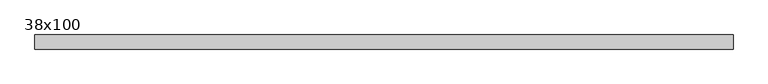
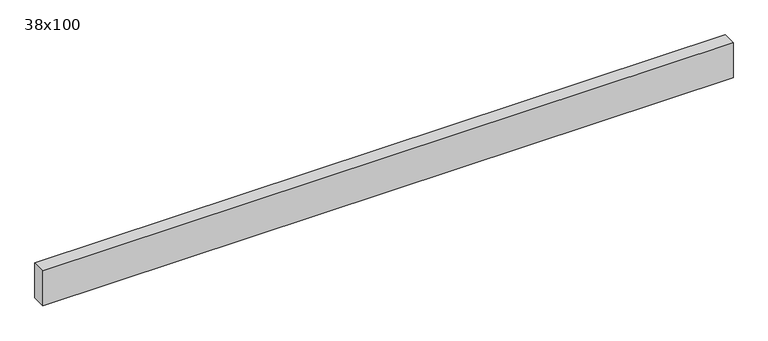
"""IFC4 building model written with IfcOpenShell, lengths in millimetres: beam geometry, Poutre - Bois de construction de dimensions courantes : 38x100."""

from ifc_helpers import new_model, si_unit, frame, origin, place, context, project, spatial, polyline, outline, extrude, source, transform, mapped, element, save


def beam_38x100_a74d10ac(model_context):
    return source(origin(), model_context, "Body", "SweptSolid", [
        extrude(outline(polyline([(916.5, 19.05), (916.5, -19.05), (-960.5, -19.05), (-960.5, 19.05), (916.5, 19.05)])), frame((0.0, 0.0, -50.0), z_axis=(0.0, 0.0, 1.0), x_axis=(1.0, 0.0, 0.0)), (0.0, 0.0, 1.0), 100.0),
    ])


if __name__ == "__main__":
    model = new_model("IFC4")
    model_context = context("Model", 3, world=origin())
    ifc_project = project(units=[si_unit("LENGTHUNIT", "METRE", prefix="MILLI")], contexts=[model_context])
    site = spatial("IfcSite", under=ifc_project)
    building = spatial("IfcBuilding", under=site)
    placement = place(None, origin())
    beam_38x100_shape = beam_38x100_a74d10ac(model_context)
    element("IfcBeam", 1, ObjectType="Poutre - Bois de construction de dimensions courantes : 38x100", at=placement, inside=building, context=model_context, shape_type="MappedRepresentation", body=[
        mapped(beam_38x100_shape, transform((0.0, 0.0, 0.0), x_axis=(1.0, 0.0, 0.0), y_axis=(0.0, 1.0, 0.0), z_axis=(0.0, 0.0, 1.0))),
    ])
    save(model, "model.ifc")
